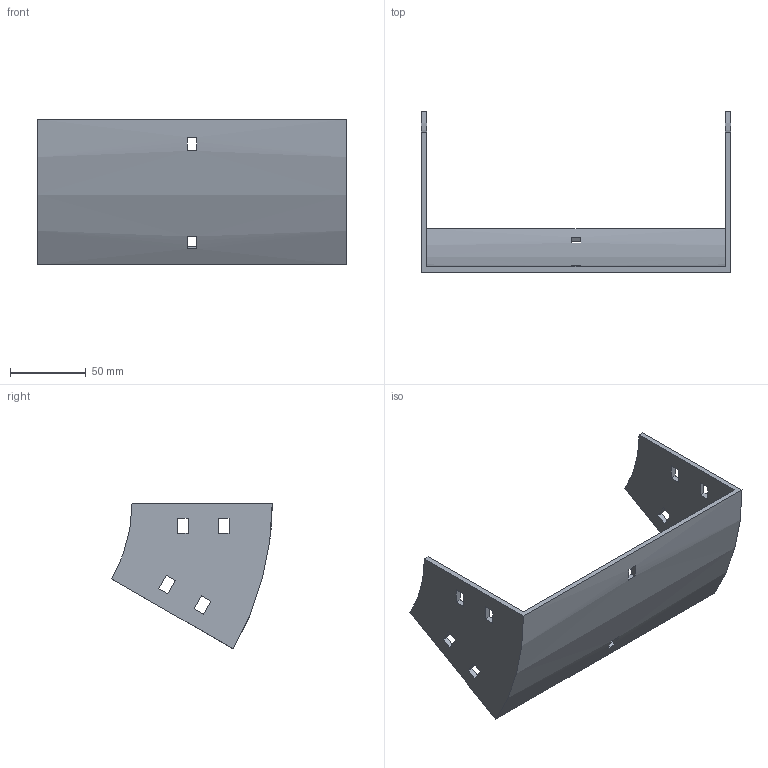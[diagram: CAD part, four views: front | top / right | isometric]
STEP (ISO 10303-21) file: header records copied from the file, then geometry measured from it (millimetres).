
FILE_DESCRIPTION (( 'STEP AP214' ), '1' );
FILE_NAME ('32B1I200.step', '2025-02-21T09:45:14', ( '' ), ( '' ), 'SwSTEP 2.0', 'SolidWorks 2023', '' );
FILE_SCHEMA (( 'AUTOMOTIVE_DESIGN' ));
Length unit declared in the file: millimetre
Products named in the file (1): 32B1I200
Bounding box: 204 x 105.9 x 96.25 mm (x, y, z)
Volume: 116076.9 mm3; surface area: 70546.5 mm2
Topology: 1 solids, 1 shells, 50 faces, 144 edges, 96 vertices
Faces by surface type: plane 46, cylinder 4
Entity records: 1687 total; most frequent: CARTESIAN_POINT 291, ORIENTED_EDGE 288, DIRECTION 262, EDGE_CURVE 144, VECTOR 128, LINE 128, VERTEX_POINT 96, EDGE_LOOP 70
